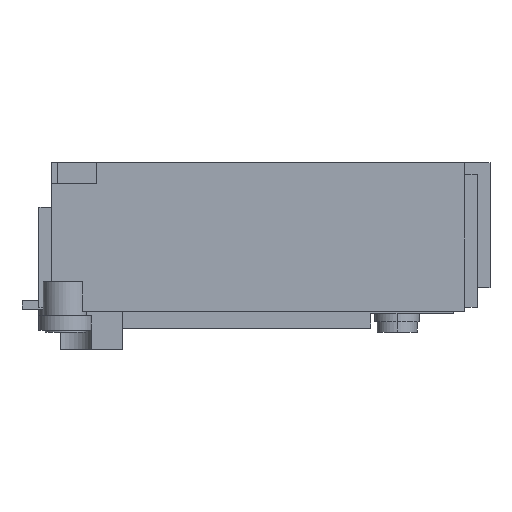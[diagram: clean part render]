
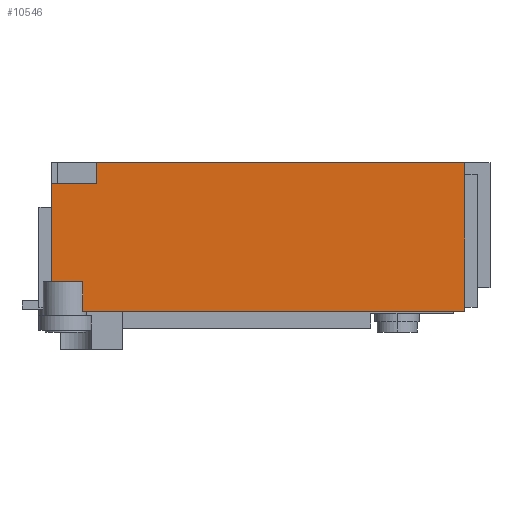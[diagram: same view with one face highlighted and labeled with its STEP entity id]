
A CAD part, left-side view. The second image highlights one B-rep face of the part: STEP entity #10546.
In plain terms, the highlighted planar face has unit normal (-1, 0, 0).
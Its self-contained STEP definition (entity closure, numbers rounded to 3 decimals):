
#45=DIRECTION('',(0.,1.,0.));
#46=VECTOR('',#45,87.1);
#47=CARTESIAN_POINT('',(0.,0.,0.));
#48=LINE('',#47,#46);
#205=DIRECTION('',(0.,-1.,0.));
#206=VECTOR('',#205,10.7);
#207=CARTESIAN_POINT('',(0.,97.8,-5.));
#208=LINE('',#207,#206);
#209=DIRECTION('',(0.,0.,-1.));
#210=VECTOR('',#209,5.);
#211=CARTESIAN_POINT('',(0.,87.1,0.));
#212=LINE('',#211,#210);
#213=DIRECTION('',(0.,0.,-1.));
#214=VECTOR('',#213,35.2);
#215=CARTESIAN_POINT('',(0.,0.,0.));
#216=LINE('',#215,#214);
#217=DIRECTION('',(0.,0.,-1.));
#218=VECTOR('',#217,7.);
#219=CARTESIAN_POINT('',(0.,90.434,-28.2));
#220=LINE('',#219,#218);
#221=DIRECTION('',(0.,-1.,0.));
#222=VECTOR('',#221,7.366);
#223=CARTESIAN_POINT('',(0.,97.8,-28.2));
#224=LINE('',#223,#222);
#317=DIRECTION('',(0.,0.,-1.));
#318=VECTOR('',#317,23.2);
#319=CARTESIAN_POINT('',(0.,97.8,-5.));
#320=LINE('',#319,#318);
#629=DIRECTION('',(0.,1.,0.));
#630=VECTOR('',#629,90.434);
#631=CARTESIAN_POINT('',(0.,0.,-35.2));
#632=LINE('',#631,#630);
#7948=CARTESIAN_POINT('',(0.,0.,-35.2));
#7950=VERTEX_POINT('',#7948);
#7951=CARTESIAN_POINT('',(0.,0.,0.));
#7952=VERTEX_POINT('',#7951);
#8066=CARTESIAN_POINT('',(0.,90.434,-35.2));
#8068=VERTEX_POINT('',#8066);
#8069=CARTESIAN_POINT('',(0.,97.8,-28.2));
#8070=CARTESIAN_POINT('',(0.,90.434,-28.2));
#8071=VERTEX_POINT('',#8069);
#8072=VERTEX_POINT('',#8070);
#8179=CARTESIAN_POINT('',(0.,97.8,-5.));
#8180=CARTESIAN_POINT('',(0.,87.1,-5.));
#8181=VERTEX_POINT('',#8179);
#8182=VERTEX_POINT('',#8180);
#8183=CARTESIAN_POINT('',(0.,87.1,0.));
#8184=VERTEX_POINT('',#8183);
#10525=CARTESIAN_POINT('',(0.,0.,0.));
#10526=DIRECTION('',(-1.,0.,0.));
#10527=DIRECTION('',(0.,1.,0.));
#10528=AXIS2_PLACEMENT_3D('',#10525,#10526,#10527);
#10529=PLANE('',#10528);
#10531=ORIENTED_EDGE('',*,*,#10530,.T.);
#10532=ORIENTED_EDGE('',*,*,#10518,.F.);
#10533=ORIENTED_EDGE('',*,*,#10258,.F.);
#10535=ORIENTED_EDGE('',*,*,#10534,.T.);
#10537=ORIENTED_EDGE('',*,*,#10536,.T.);
#10539=ORIENTED_EDGE('',*,*,#10538,.F.);
#10541=ORIENTED_EDGE('',*,*,#10540,.F.);
#10543=ORIENTED_EDGE('',*,*,#10542,.F.);
#10544=EDGE_LOOP('',(#10531,#10532,#10533,#10535,#10537,#10539,#10541,#10543));
#10545=FACE_OUTER_BOUND('',#10544,.F.);
#10546=ADVANCED_FACE('',(#10545),#10529,.T.);
#10258=EDGE_CURVE('',#7952,#8184,#48,.T.);
#10518=EDGE_CURVE('',#8184,#8182,#212,.T.);
#10530=EDGE_CURVE('',#8181,#8182,#208,.T.);
#10534=EDGE_CURVE('',#7952,#7950,#216,.T.);
#10536=EDGE_CURVE('',#7950,#8068,#632,.T.);
#10538=EDGE_CURVE('',#8072,#8068,#220,.T.);
#10540=EDGE_CURVE('',#8071,#8072,#224,.T.);
#10542=EDGE_CURVE('',#8181,#8071,#320,.T.);
